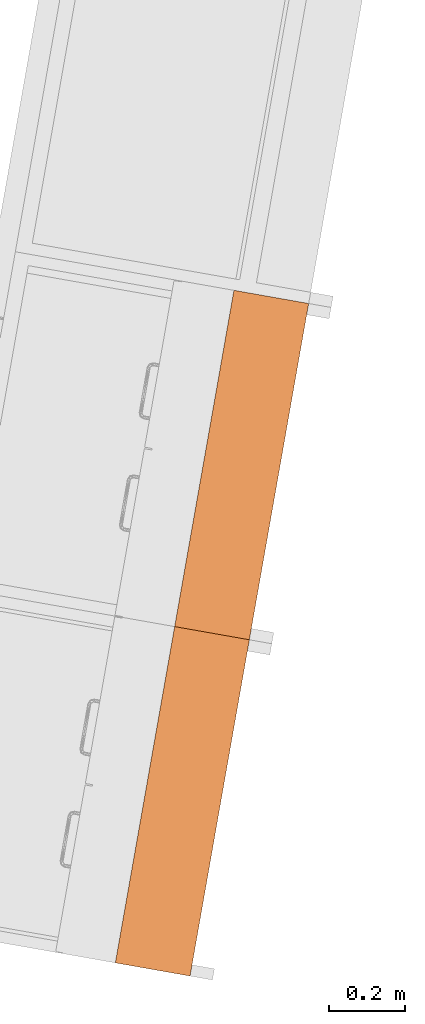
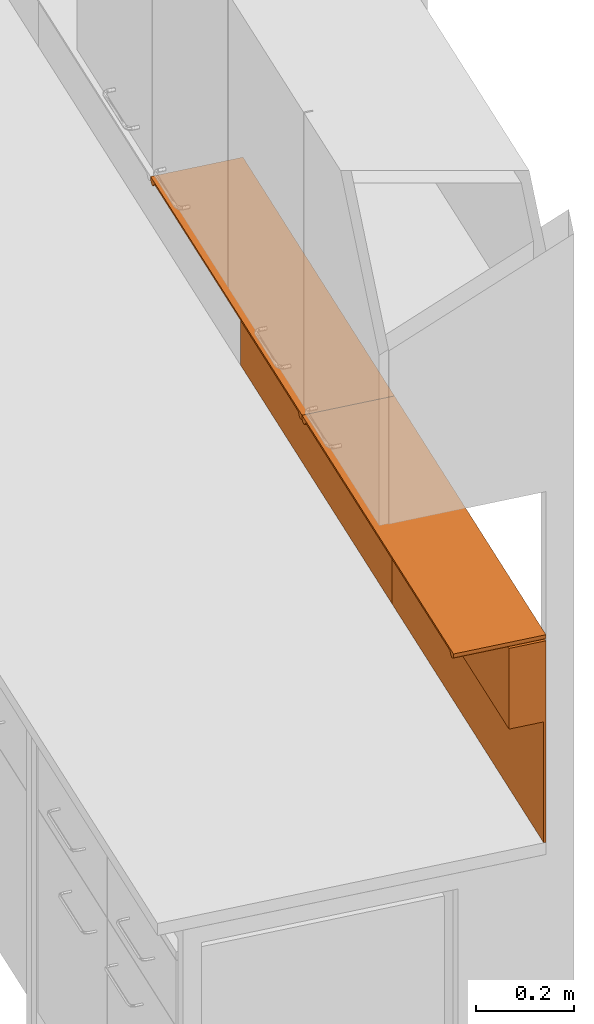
# One storey, part 27 of 43: 2 proxies.
"""IFC2X3 building model written with IfcOpenShell, lengths in metres."""

from ifc_helpers import new_model, entity, si_unit, converted_unit, derived_unit, direction, frame, frame_2d, origin, origin_2d_with_axis, place, context, subcontext, project, spatial, polyline, circle_curve, parameter, trimmed, segment, composite_curve, rectangle, outline, extrude, source, transform, mapped, material, material_list, type_object, type_shapes, element, save


model = new_model("IFC2X3")

# Units and contexts
model_context = context("Model", 3, precision=1e-05, world=origin(), true_north=direction((6.12303176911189e-17, 1.0)))
body_context = subcontext(model_context, "Body", "Model", "MODEL_VIEW")
ifc_project = project(units=[si_unit("LENGTHUNIT", "METRE"), si_unit("AREAUNIT", "SQUARE_METRE"), si_unit("VOLUMEUNIT", "CUBIC_METRE"), converted_unit("PLANEANGLEUNIT", "DEGREE", entity("IfcRatioMeasure", 0.0174532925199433), si_unit("PLANEANGLEUNIT", "RADIAN"), dimensions=[0, 0, 0, 0, 0, 0, 0]), si_unit("MASSUNIT", "GRAM", prefix="KILO"), derived_unit("MASSDENSITYUNIT", [(si_unit("MASSUNIT", "GRAM", prefix="KILO"), 1), (si_unit("LENGTHUNIT", "METRE"), -3)]), derived_unit("MOMENTOFINERTIAUNIT", [(si_unit("LENGTHUNIT", "METRE"), 4)]), si_unit("TIMEUNIT", "SECOND"), si_unit("FREQUENCYUNIT", "HERTZ"), si_unit("THERMODYNAMICTEMPERATUREUNIT", "DEGREE_CELSIUS"), derived_unit("THERMALTRANSMITTANCEUNIT", [(si_unit("MASSUNIT", "GRAM", prefix="KILO"), 1), (si_unit("THERMODYNAMICTEMPERATUREUNIT", "KELVIN"), -1), (si_unit("TIMEUNIT", "SECOND"), -3)]), derived_unit("VOLUMETRICFLOWRATEUNIT", [(si_unit("LENGTHUNIT", "METRE"), 3), (si_unit("TIMEUNIT", "SECOND"), -1)]), si_unit("ELECTRICCURRENTUNIT", "AMPERE"), si_unit("ELECTRICVOLTAGEUNIT", "VOLT"), si_unit("POWERUNIT", "WATT"), si_unit("FORCEUNIT", "NEWTON", prefix="KILO"), si_unit("ILLUMINANCEUNIT", "LUX"), si_unit("LUMINOUSFLUXUNIT", "LUMEN"), si_unit("LUMINOUSINTENSITYUNIT", "CANDELA"), derived_unit("USERDEFINED", [(si_unit("MASSUNIT", "GRAM", prefix="KILO"), -1), (si_unit("LENGTHUNIT", "METRE"), -2), (si_unit("TIMEUNIT", "SECOND"), 3), (si_unit("LUMINOUSFLUXUNIT", "LUMEN"), 1)]), derived_unit("LINEARVELOCITYUNIT", [(si_unit("LENGTHUNIT", "METRE"), 1), (si_unit("TIMEUNIT", "SECOND"), -1)]), si_unit("PRESSUREUNIT", "PASCAL"), derived_unit("USERDEFINED", [(si_unit("LENGTHUNIT", "METRE"), -2), (si_unit("MASSUNIT", "GRAM", prefix="KILO"), 1), (si_unit("TIMEUNIT", "SECOND"), -2)]), derived_unit("LINEARFORCEUNIT", [(si_unit("MASSUNIT", "GRAM", prefix="KILO"), 1), (si_unit("LENGTHUNIT", "METRE"), 1), (si_unit("TIMEUNIT", "SECOND"), -2), (si_unit("LENGTHUNIT", "METRE"), -1)]), derived_unit("PLANARFORCEUNIT", [(si_unit("MASSUNIT", "GRAM", prefix="KILO"), 1), (si_unit("LENGTHUNIT", "METRE"), 1), (si_unit("TIMEUNIT", "SECOND"), -2), (si_unit("LENGTHUNIT", "METRE"), -2)])], contexts=[model_context])

# Site, building, storey
site_placement = place(None, origin())
site = spatial("IfcSite", under=ifc_project, at=site_placement, Name="Default", CompositionType="ELEMENT")
building_placement = place(site_placement, origin())
building = spatial("IfcBuilding", under=site, at=building_placement, CompositionType="ELEMENT")
storey_placement = place(building_placement, frame((0.0, 0.0, 3.0)))
storey = spatial("IfcBuildingStorey", under=building, at=storey_placement, Name="01 OG", CompositionType="ELEMENT", Elevation=3.0)

# Proxies
ifc_material_1 = material(Name="dh_Weiß")
ifc_material_2 = material(Name="dh_Glas WHS")
ifc_material_3 = material(Name="dh_Blau")
ifc_material_list_1 = material_list([ifc_material_1, ifc_material_2, ifc_material_3])
ifc_material_list_2 = material_list([ifc_material_1, ifc_material_2, ifc_material_3])
building_element_proxy_type = type_object("IfcBuildingElementProxyType", Name="dh_Medienwand WHA:90 Stehtisch", PredefinedType="NOTDEFINED", material=ifc_material_list_2)
shared_shape = source(origin(), body_context, "Body", "SweptSolid", [
    extrude(outline(composite_curve([segment(trimmed(circle_curve(frame_2d((0.0, 0.0), x_axis=(-1.0, 0.0)), 0.01), [parameter(0.0)], [parameter(180.0)], True, "PARAMETER"), True, "CONTINUOUS"), segment(polyline([(0.01, 0.0), (-0.01, 0.0)]), True, "CONTINUOUS")], self_intersect=False)), frame((-0.589999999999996, 0.1, 1.40999999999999), z_axis=(0.0, -1.0, 0.0), x_axis=(1.0, 0.0, 0.0)), (0.0, 0.0, -1.0), 0.2),
    extrude(outline(composite_curve([segment(trimmed(circle_curve(origin_2d_with_axis(), 0.00999999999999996), [parameter(0.0)], [parameter(180.0)], True, "PARAMETER"), True, "CONTINUOUS"), segment(polyline([(-0.0099999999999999, 0.0), (0.0099999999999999, 0.0)]), True, "CONTINUOUS")], self_intersect=False)), frame((0.290000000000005, 0.1, 1.40999999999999), z_axis=(0.0, 1.0, 0.0), x_axis=(1.0, 0.0, 0.0)), (0.0, 0.0, 1.0), 0.2),
    extrude(rectangle(XDim=0.9, YDim=0.2, at=origin_2d_with_axis()), frame((-0.149999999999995, 0.2, 1.40999999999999), z_axis=(0.0, 0.0, 1.0), x_axis=(-1.0, 0.0, 0.0)), (0.0, 0.0, 1.0), 0.00499999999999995),
    extrude(rectangle(XDim=0.00500000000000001, YDim=0.9, at=frame_2d((-3.38271077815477e-17, -5.55111512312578e-17), x_axis=(1.0, 0.0))), frame((-0.15, 0.2975, 0.900000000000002), z_axis=(0.0, 0.0, 1.0), x_axis=(0.0, 1.0, 0.0)), (0.0, 0.0, 1.0), 0.299999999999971),
    extrude(rectangle(XDim=0.9, YDim=0.08, at=frame_2d((0.0, 3.46944695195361e-17), x_axis=(1.0, 0.0))), frame((-0.15, 0.26, 1.20000000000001), z_axis=(0.0, 0.0, 1.0), x_axis=(-1.0, 0.0, 0.0)), (0.0, 0.0, 1.0), 0.199999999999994),
])
type_shapes(building_element_proxy_type, [shared_shape])
proxy_1_placement = place(storey_placement, frame((28.5579411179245, 6.18174034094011, 0.0), z_axis=(0.0, 0.0, 1.0), x_axis=(-0.173648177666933, -0.984807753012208, 0.0)))
element("IfcBuildingElementProxy", 1, at=proxy_1_placement, inside=storey, type_object=building_element_proxy_type, material=ifc_material_list_1, Name="dh_Medienwand WHA:90 Stehtisch", ObjectType="dh_Medienwand WHA:90 Stehtisch", context=body_context, shape_type="MappedRepresentation", body=[
    mapped(shared_shape, transform((0.0, 0.0, 0.0), scale=1.0)),
])
ifc_material_list_3 = material_list([ifc_material_1, ifc_material_2, ifc_material_3])
proxy_2_placement = place(storey_placement, frame((28.7142244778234, 7.06806731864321, 0.0), z_axis=(0.0, 0.0, 1.0), x_axis=(-0.173648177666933, -0.984807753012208, 0.0)))
element("IfcBuildingElementProxy", 2, at=proxy_2_placement, inside=storey, type_object=building_element_proxy_type, material=ifc_material_list_3, Name="dh_Medienwand WHA:90 Stehtisch", ObjectType="dh_Medienwand WHA:90 Stehtisch", context=body_context, shape_type="MappedRepresentation", body=[
    mapped(shared_shape, transform((0.0, 0.0, 0.0), scale=1.0)),
])

save(model, "model.ifc")
